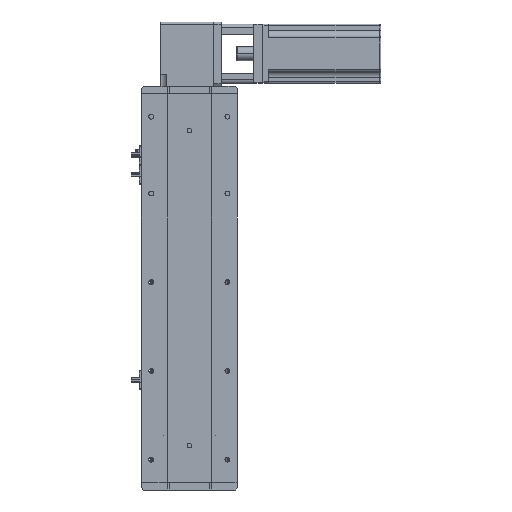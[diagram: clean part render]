
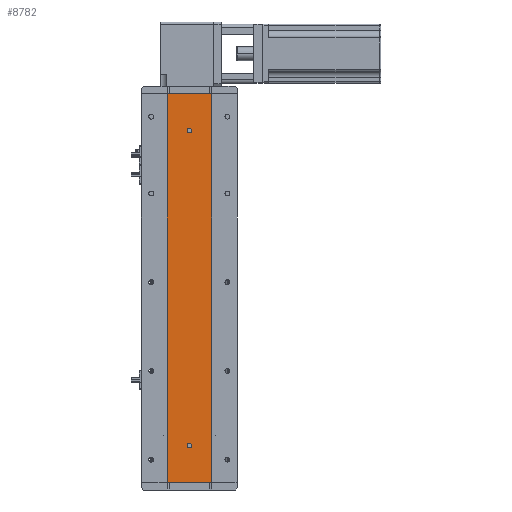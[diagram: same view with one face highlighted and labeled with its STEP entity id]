
A CAD part, left-side view. The second image highlights one B-rep face of the part: STEP entity #8782.
In plain terms, the highlighted planar face has unit normal (-1, 0, 0).
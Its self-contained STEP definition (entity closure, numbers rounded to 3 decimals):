
#1490 = DIRECTION ( 'NONE',  ( 0., 0., -1. ) ) ;
#1879 = ORIENTED_EDGE ( 'NONE', *, *, #19814, .F. ) ;
#2390 = CARTESIAN_POINT ( 'NONE',  ( -24.994, 29.785, 0. ) ) ;
#2687 = CARTESIAN_POINT ( 'NONE',  ( -24.994, -29.785, 526. ) ) ;
#3152 = EDGE_CURVE ( 'NONE', #8772, #42694, #28909, .T. ) ;
#3744 = CARTESIAN_POINT ( 'NONE',  ( -24.994, 0., 473. ) ) ;
#3943 = VERTEX_POINT ( 'NONE', #26022 ) ;
#4018 = EDGE_CURVE ( 'NONE', #26806, #10784, #9030, .T. ) ;
#4416 = LINE ( 'NONE', #23885, #37861 ) ;
#4666 = EDGE_CURVE ( 'NONE', #3943, #39457, #37519, .T. ) ;
#5141 = EDGE_CURVE ( 'NONE', #36244, #39889, #42299, .T. ) ;
#5179 = CARTESIAN_POINT ( 'NONE',  ( -24.994, 0., 47. ) ) ;
#6461 = CARTESIAN_POINT ( 'NONE',  ( -24.994, 0., 476. ) ) ;
#6477 = DIRECTION ( 'NONE',  ( 0., -1., 0. ) ) ;
#6747 = EDGE_CURVE ( 'NONE', #42694, #39889, #27593, .T. ) ;
#7158 = CARTESIAN_POINT ( 'NONE',  ( -24.994, 29.785, 526. ) ) ;
#8772 = VERTEX_POINT ( 'NONE', #41345 ) ;
#8782 = ADVANCED_FACE ( 'NONE', ( #28525, #38720, #39781 ), #31182, .F. ) ;
#8946 = AXIS2_PLACEMENT_3D ( 'NONE', #6461, #30640, #9932 ) ;
#9030 = CIRCLE ( 'NONE', #29190, 3. ) ;
#9200 = CIRCLE ( 'NONE', #8946, 3. ) ;
#9215 = VECTOR ( 'NONE', #38778, 1000. ) ;
#9379 = ORIENTED_EDGE ( 'NONE', *, *, #3152, .T. ) ;
#9770 = DIRECTION ( 'NONE',  ( -1., 0., 0. ) ) ;
#9932 = DIRECTION ( 'NONE',  ( 0., 0., 1. ) ) ;
#9964 = DIRECTION ( 'NONE',  ( -1., 0., 0. ) ) ;
#10118 = ORIENTED_EDGE ( 'NONE', *, *, #4666, .F. ) ;
#10602 = DIRECTION ( 'NONE',  ( 0., 0., -1. ) ) ;
#10784 = VERTEX_POINT ( 'NONE', #3744 ) ;
#11952 = EDGE_CURVE ( 'NONE', #10784, #26806, #9200, .T. ) ;
#13100 = DIRECTION ( 'NONE',  ( 0., 0., -1. ) ) ;
#14672 = CARTESIAN_POINT ( 'NONE',  ( -24.994, 29.785, 0. ) ) ;
#16461 = CARTESIAN_POINT ( 'NONE',  ( -24.994, 0., 476. ) ) ;
#17382 = CIRCLE ( 'NONE', #30990, 3. ) ;
#18966 = AXIS2_PLACEMENT_3D ( 'NONE', #7158, #31333, #10602 ) ;
#19727 = VECTOR ( 'NONE', #1490, 1000. ) ;
#19814 = EDGE_CURVE ( 'NONE', #8772, #36244, #4416, .T. ) ;
#19927 = DIRECTION ( 'NONE',  ( 0., 0., 1. ) ) ;
#19987 = CARTESIAN_POINT ( 'NONE',  ( -24.994, 0., 479. ) ) ;
#20077 = EDGE_LOOP ( 'NONE', ( #20401, #36725, #1879, #9379 ) ) ;
#20401 = ORIENTED_EDGE ( 'NONE', *, *, #6747, .T. ) ;
#22387 = EDGE_LOOP ( 'NONE', ( #33622, #35062 ) ) ;
#23885 = CARTESIAN_POINT ( 'NONE',  ( -24.994, 29.785, 526. ) ) ;
#24333 = EDGE_LOOP ( 'NONE', ( #10118, #40813 ) ) ;
#24687 = CARTESIAN_POINT ( 'NONE',  ( -24.994, -29.785, 0. ) ) ;
#24855 = CARTESIAN_POINT ( 'NONE',  ( -24.994, 29.785, 526. ) ) ;
#26022 = CARTESIAN_POINT ( 'NONE',  ( -24.994, 0., 53. ) ) ;
#26641 = AXIS2_PLACEMENT_3D ( 'NONE', #30671, #9964, #34147 ) ;
#26806 = VERTEX_POINT ( 'NONE', #19987 ) ;
#27593 = LINE ( 'NONE', #14672, #9215 ) ;
#28525 = FACE_BOUND ( 'NONE', #22387, .T. ) ;
#28858 = CARTESIAN_POINT ( 'NONE',  ( -24.994, -29.785, 526. ) ) ;
#28909 = LINE ( 'NONE', #24855, #19727 ) ;
#29190 = AXIS2_PLACEMENT_3D ( 'NONE', #16461, #40498, #19927 ) ;
#30484 = CARTESIAN_POINT ( 'NONE',  ( -24.994, 0., 50. ) ) ;
#30640 = DIRECTION ( 'NONE',  ( -1., 0., 0. ) ) ;
#30671 = CARTESIAN_POINT ( 'NONE',  ( -24.994, 0., 50. ) ) ;
#30990 = AXIS2_PLACEMENT_3D ( 'NONE', #30484, #9770, #33952 ) ;
#31182 = PLANE ( 'NONE',  #18966 ) ;
#31333 = DIRECTION ( 'NONE',  ( 1., 0., 0. ) ) ;
#33237 = VECTOR ( 'NONE', #13100, 1000. ) ;
#33622 = ORIENTED_EDGE ( 'NONE', *, *, #4018, .F. ) ;
#33952 = DIRECTION ( 'NONE',  ( 0., 0., 1. ) ) ;
#34147 = DIRECTION ( 'NONE',  ( 0., 0., 1. ) ) ;
#35062 = ORIENTED_EDGE ( 'NONE', *, *, #11952, .F. ) ;
#36244 = VERTEX_POINT ( 'NONE', #28858 ) ;
#36725 = ORIENTED_EDGE ( 'NONE', *, *, #5141, .F. ) ;
#37519 = CIRCLE ( 'NONE', #26641, 3. ) ;
#37861 = VECTOR ( 'NONE', #6477, 1000. ) ;
#38720 = FACE_BOUND ( 'NONE', #24333, .T. ) ;
#38778 = DIRECTION ( 'NONE',  ( 0., -1., 0. ) ) ;
#39457 = VERTEX_POINT ( 'NONE', #5179 ) ;
#39781 = FACE_OUTER_BOUND ( 'NONE', #20077, .T. ) ;
#39889 = VERTEX_POINT ( 'NONE', #24687 ) ;
#40498 = DIRECTION ( 'NONE',  ( -1., 0., 0. ) ) ;
#40813 = ORIENTED_EDGE ( 'NONE', *, *, #44273, .F. ) ;
#41345 = CARTESIAN_POINT ( 'NONE',  ( -24.994, 29.785, 526. ) ) ;
#42299 = LINE ( 'NONE', #2687, #33237 ) ;
#42694 = VERTEX_POINT ( 'NONE', #2390 ) ;
#44273 = EDGE_CURVE ( 'NONE', #39457, #3943, #17382, .T. ) ;
